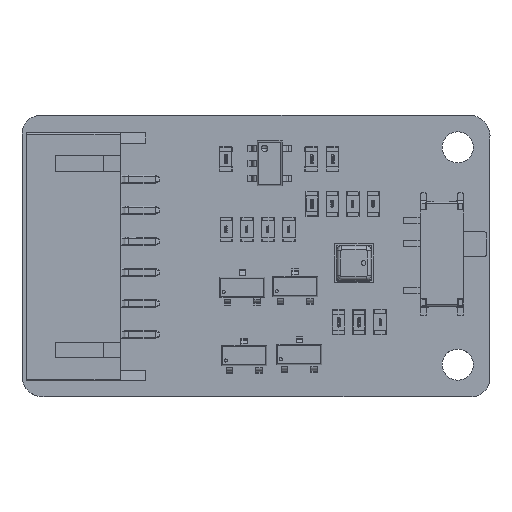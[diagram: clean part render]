
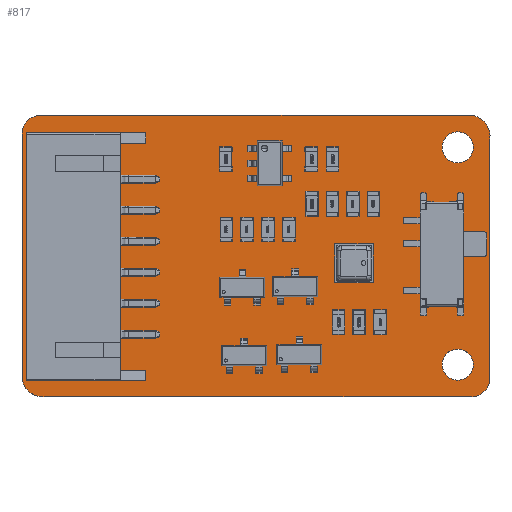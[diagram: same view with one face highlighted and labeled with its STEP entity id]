
A CAD part, top view. The second image highlights one B-rep face of the part: STEP entity #817.
In plain terms, the highlighted planar face has unit normal (0, 0, 1).
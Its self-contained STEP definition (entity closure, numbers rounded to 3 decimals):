
#140 = VERTEX_POINT('',#141);
#141 = CARTESIAN_POINT('',(-0.076,1.135,0.411)
  );
#147 = EDGE_CURVE('',#140,#148,#150,.T.);
#148 = VERTEX_POINT('',#149);
#149 = CARTESIAN_POINT('',(1.426,-0.077,0.411)
  );
#150 = CIRCLE('',#151,1.368);
#151 = AXIS2_PLACEMENT_3D('',#152,#153,#154);
#152 = CARTESIAN_POINT('',(1.284,1.284,0.411));
#153 = DIRECTION('',(0.,0.,1.));
#154 = DIRECTION('',(-0.994,-0.109,0.));
#180 = EDGE_CURVE('',#148,#181,#183,.T.);
#181 = VERTEX_POINT('',#182);
#182 = CARTESIAN_POINT('',(28.743,-0.077,0.411)
  );
#183 = LINE('',#184,#185);
#184 = CARTESIAN_POINT('',(1.426,-0.077,0.411)
  );
#185 = VECTOR('',#186,1.);
#186 = DIRECTION('',(1.,0.,0.));
#211 = EDGE_CURVE('',#181,#212,#214,.T.);
#212 = VERTEX_POINT('',#213);
#213 = CARTESIAN_POINT('',(28.91,-0.077,0.411)
  );
#214 = CIRCLE('',#215,1.744);
#215 = AXIS2_PLACEMENT_3D('',#216,#217,#218);
#216 = CARTESIAN_POINT('',(28.826,1.665,0.411));
#217 = DIRECTION('',(0.,0.,1.));
#218 = DIRECTION('',(-0.048,-0.999,0.));
#244 = EDGE_CURVE('',#212,#245,#247,.T.);
#245 = VERTEX_POINT('',#246);
#246 = CARTESIAN_POINT('',(29.007,-0.077,0.411)
  );
#247 = LINE('',#248,#249);
#248 = CARTESIAN_POINT('',(28.91,-0.077,0.411)
  );
#249 = VECTOR('',#250,1.);
#250 = DIRECTION('',(1.,0.,0.));
#275 = EDGE_CURVE('',#245,#276,#278,.T.);
#276 = VERTEX_POINT('',#277);
#277 = CARTESIAN_POINT('',(29.057,-0.058,0.411)
  );
#278 = CIRCLE('',#279,0.081);
#279 = AXIS2_PLACEMENT_3D('',#280,#281,#282);
#280 = CARTESIAN_POINT('',(29.005,0.004,0.411)
  );
#281 = DIRECTION('',(0.,0.,1.));
#282 = DIRECTION('',(0.025,-1.,0.));
#308 = EDGE_CURVE('',#276,#309,#311,.T.);
#309 = VERTEX_POINT('',#310);
#310 = CARTESIAN_POINT('',(30.076,1.087,0.411));
#311 = CIRCLE('',#312,1.252);
#312 = AXIS2_PLACEMENT_3D('',#313,#314,#315);
#313 = CARTESIAN_POINT('',(28.827,1.172,0.411));
#314 = DIRECTION('',(0.,0.,1.));
#315 = DIRECTION('',(0.184,-0.983,0.));
#341 = EDGE_CURVE('',#309,#342,#344,.T.);
#342 = VERTEX_POINT('',#343);
#343 = CARTESIAN_POINT('',(30.077,1.092,0.411));
#344 = CIRCLE('',#345,0.008);
#345 = AXIS2_PLACEMENT_3D('',#346,#347,#348);
#346 = CARTESIAN_POINT('',(30.069,1.091,0.411));
#347 = DIRECTION('',(0.,0.,1.));
#348 = DIRECTION('',(0.868,-0.496,0.));
#374 = EDGE_CURVE('',#342,#375,#377,.T.);
#375 = VERTEX_POINT('',#376);
#376 = CARTESIAN_POINT('',(30.077,16.51,0.411));
#377 = LINE('',#378,#379);
#378 = CARTESIAN_POINT('',(30.077,1.092,0.411));
#379 = VECTOR('',#380,1.);
#380 = DIRECTION('',(0.,1.,0.));
#405 = EDGE_CURVE('',#375,#406,#408,.T.);
#406 = VERTEX_POINT('',#407);
#407 = CARTESIAN_POINT('',(30.075,16.525,0.411));
#408 = CIRCLE('',#409,0.432);
#409 = AXIS2_PLACEMENT_3D('',#410,#411,#412);
#410 = CARTESIAN_POINT('',(29.648,16.46,0.411));
#411 = DIRECTION('',(0.,0.,1.));
#412 = DIRECTION('',(0.993,0.115,0.));
#438 = EDGE_CURVE('',#406,#439,#441,.T.);
#439 = VERTEX_POINT('',#440);
#440 = CARTESIAN_POINT('',(28.858,18.084,0.411));
#441 = CIRCLE('',#442,1.438);
#442 = AXIS2_PLACEMENT_3D('',#443,#444,#445);
#443 = CARTESIAN_POINT('',(28.644,16.662,0.411));
#444 = DIRECTION('',(0.,0.,1.));
#445 = DIRECTION('',(0.995,-0.095,0.));
#471 = EDGE_CURVE('',#439,#472,#474,.T.);
#472 = VERTEX_POINT('',#473);
#473 = CARTESIAN_POINT('',(28.812,18.077,0.411));
#474 = CIRCLE('',#475,0.077);
#475 = AXIS2_PLACEMENT_3D('',#476,#477,#478);
#476 = CARTESIAN_POINT('',(28.846,18.008,0.411));
#477 = DIRECTION('',(0.,0.,1.));
#478 = DIRECTION('',(0.156,0.988,0.));
#504 = EDGE_CURVE('',#472,#505,#507,.T.);
#505 = VERTEX_POINT('',#506);
#506 = CARTESIAN_POINT('',(1.118,18.077,0.411));
#507 = LINE('',#508,#509);
#508 = CARTESIAN_POINT('',(28.812,18.077,0.411));
#509 = VECTOR('',#510,1.);
#510 = DIRECTION('',(-1.,0.,0.));
#535 = EDGE_CURVE('',#505,#536,#538,.T.);
#536 = VERTEX_POINT('',#537);
#537 = CARTESIAN_POINT('',(1.117,18.077,0.411));
#538 = LINE('',#539,#540);
#539 = CARTESIAN_POINT('',(1.118,18.077,0.411));
#540 = VECTOR('',#541,1.);
#541 = DIRECTION('',(-1.,0.,0.));
#566 = EDGE_CURVE('',#536,#567,#569,.T.);
#567 = VERTEX_POINT('',#568);
#568 = CARTESIAN_POINT('',(-0.077,16.857,0.411)
  );
#569 = CIRCLE('',#570,1.207);
#570 = AXIS2_PLACEMENT_3D('',#571,#572,#573);
#571 = CARTESIAN_POINT('',(1.13,16.87,0.411));
#572 = DIRECTION('',(0.,0.,1.));
#573 = DIRECTION('',(-0.011,1.,0.));
#599 = EDGE_CURVE('',#567,#600,#602,.T.);
#600 = VERTEX_POINT('',#601);
#601 = CARTESIAN_POINT('',(-0.077,1.143,0.411)
  );
#602 = LINE('',#603,#604);
#603 = CARTESIAN_POINT('',(-0.077,16.857,0.411)
  );
#604 = VECTOR('',#605,1.);
#605 = DIRECTION('',(0.,-1.,0.));
#630 = EDGE_CURVE('',#600,#140,#631,.T.);
#631 = CIRCLE('',#632,0.017);
#632 = AXIS2_PLACEMENT_3D('',#633,#634,#635);
#633 = CARTESIAN_POINT('',(-0.092,1.137,0.411)
  );
#634 = DIRECTION('',(0.,0.,-1.));
#635 = DIRECTION('',(0.933,0.361,0.));
#656 = VERTEX_POINT('',#657);
#657 = CARTESIAN_POINT('',(27.434,7.5,0.411));
#663 = EDGE_CURVE('',#656,#656,#664,.T.);
#664 = CIRCLE('',#665,0.45);
#665 = AXIS2_PLACEMENT_3D('',#666,#667,#668);
#666 = CARTESIAN_POINT('',(26.984,7.5,0.411));
#667 = DIRECTION('',(0.,0.,1.));
#668 = DIRECTION('',(1.,0.,0.));
#689 = VERTEX_POINT('',#690);
#690 = CARTESIAN_POINT('',(27.434,10.5,0.411));
#696 = EDGE_CURVE('',#689,#689,#697,.T.);
#697 = CIRCLE('',#698,0.45);
#698 = AXIS2_PLACEMENT_3D('',#699,#700,#701);
#699 = CARTESIAN_POINT('',(26.984,10.5,0.411));
#700 = DIRECTION('',(0.,0.,1.));
#701 = DIRECTION('',(1.,0.,0.));
#722 = VERTEX_POINT('',#723);
#723 = CARTESIAN_POINT('',(29.,2.,0.411));
#729 = EDGE_CURVE('',#722,#722,#730,.T.);
#730 = CIRCLE('',#731,1.);
#731 = AXIS2_PLACEMENT_3D('',#732,#733,#734);
#732 = CARTESIAN_POINT('',(28.,2.,0.411));
#733 = DIRECTION('',(0.,0.,1.));
#734 = DIRECTION('',(1.,0.,0.));
#755 = VERTEX_POINT('',#756);
#756 = CARTESIAN_POINT('',(29.,16.,0.411));
#762 = EDGE_CURVE('',#755,#755,#763,.T.);
#763 = CIRCLE('',#764,1.);
#764 = AXIS2_PLACEMENT_3D('',#765,#766,#767);
#765 = CARTESIAN_POINT('',(28.,16.,0.411));
#766 = DIRECTION('',(0.,0.,1.));
#767 = DIRECTION('',(1.,0.,0.));
#817 = ADVANCED_FACE('',(#818,#836,#839,#842,#845),#848,.F.);
#818 = FACE_BOUND('',#819,.T.);
#819 = EDGE_LOOP('',(#820,#821,#822,#823,#824,#825,#826,#827,#828,#829,
    #830,#831,#832,#833,#834,#835));
#820 = ORIENTED_EDGE('',*,*,#147,.T.);
#821 = ORIENTED_EDGE('',*,*,#180,.T.);
#822 = ORIENTED_EDGE('',*,*,#211,.T.);
#823 = ORIENTED_EDGE('',*,*,#244,.T.);
#824 = ORIENTED_EDGE('',*,*,#275,.T.);
#825 = ORIENTED_EDGE('',*,*,#308,.T.);
#826 = ORIENTED_EDGE('',*,*,#341,.T.);
#827 = ORIENTED_EDGE('',*,*,#374,.T.);
#828 = ORIENTED_EDGE('',*,*,#405,.T.);
#829 = ORIENTED_EDGE('',*,*,#438,.T.);
#830 = ORIENTED_EDGE('',*,*,#471,.T.);
#831 = ORIENTED_EDGE('',*,*,#504,.T.);
#832 = ORIENTED_EDGE('',*,*,#535,.T.);
#833 = ORIENTED_EDGE('',*,*,#566,.T.);
#834 = ORIENTED_EDGE('',*,*,#599,.T.);
#835 = ORIENTED_EDGE('',*,*,#630,.T.);
#836 = FACE_BOUND('',#837,.F.);
#837 = EDGE_LOOP('',(#838));
#838 = ORIENTED_EDGE('',*,*,#663,.T.);
#839 = FACE_BOUND('',#840,.F.);
#840 = EDGE_LOOP('',(#841));
#841 = ORIENTED_EDGE('',*,*,#696,.T.);
#842 = FACE_BOUND('',#843,.F.);
#843 = EDGE_LOOP('',(#844));
#844 = ORIENTED_EDGE('',*,*,#729,.T.);
#845 = FACE_BOUND('',#846,.F.);
#846 = EDGE_LOOP('',(#847));
#847 = ORIENTED_EDGE('',*,*,#762,.T.);
#848 = PLANE('',#849);
#849 = AXIS2_PLACEMENT_3D('',#850,#851,#852);
#850 = CARTESIAN_POINT('',(-0.076,1.135,0.411)
  );
#851 = DIRECTION('',(0.,0.,-1.));
#852 = DIRECTION('',(-1.,0.,0.));
